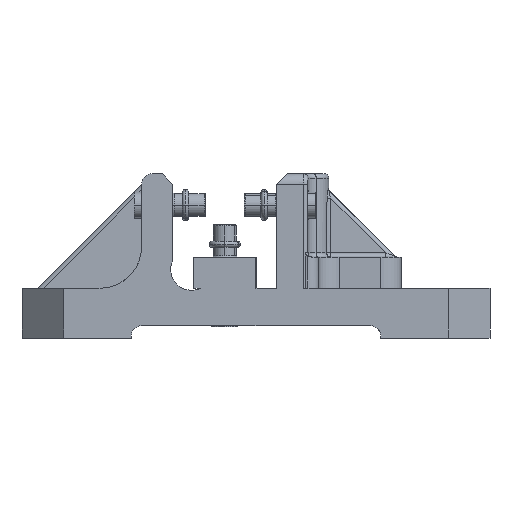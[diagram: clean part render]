
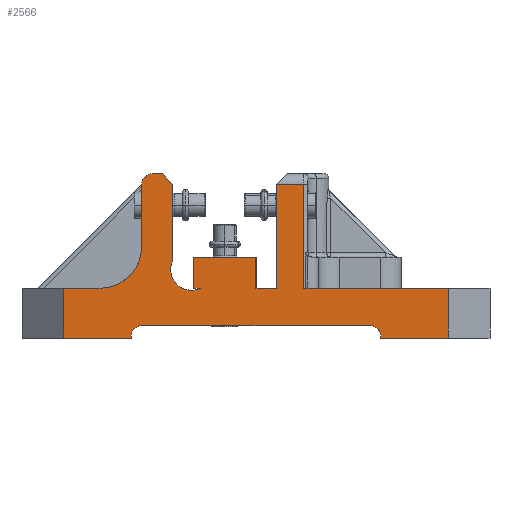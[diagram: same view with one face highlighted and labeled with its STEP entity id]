
A CAD part, left-side view. The second image highlights one B-rep face of the part: STEP entity #2566.
In plain terms, the highlighted planar face has unit normal (-1, 0, 0).
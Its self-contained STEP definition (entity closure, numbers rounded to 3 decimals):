
#2566=ADVANCED_FACE('Solid.13',(#6253),#6254,.F.);
#6253=FACE_OUTER_BOUND('',#11248,.T.);
#6254=PLANE('',#11249);
#11248=EDGE_LOOP('',(#20082,#20083,#20084,#20085,#20086,#20087,#20088,#20089,#20090,#20091,#20092,#20093,#20094,#20095,#20096,#20097,#20098,#20099,#20100,#20101,#20102,#20103,#20104,#20105,#20106,#20107,#20108,#20109));
#11249=AXIS2_PLACEMENT_3D('',#20110,#20111,#20112);
#20082=ORIENTED_EDGE('',*,*,#32218,.F.);
#20083=ORIENTED_EDGE('',*,*,#32219,.F.);
#20084=ORIENTED_EDGE('',*,*,#32220,.F.);
#20085=ORIENTED_EDGE('',*,*,#32221,.F.);
#20086=ORIENTED_EDGE('',*,*,#32222,.T.);
#20087=ORIENTED_EDGE('',*,*,#32223,.F.);
#20088=ORIENTED_EDGE('',*,*,#32224,.F.);
#20089=ORIENTED_EDGE('',*,*,#32225,.F.);
#20090=ORIENTED_EDGE('',*,*,#32226,.F.);
#20091=ORIENTED_EDGE('',*,*,#32227,.F.);
#20092=ORIENTED_EDGE('',*,*,#32228,.F.);
#20093=ORIENTED_EDGE('',*,*,#32229,.F.);
#20094=ORIENTED_EDGE('',*,*,#32023,.F.);
#20095=ORIENTED_EDGE('',*,*,#32230,.F.);
#20096=ORIENTED_EDGE('',*,*,#32203,.F.);
#20097=ORIENTED_EDGE('',*,*,#32231,.F.);
#20098=ORIENTED_EDGE('',*,*,#32232,.F.);
#20099=ORIENTED_EDGE('',*,*,#32233,.F.);
#20100=ORIENTED_EDGE('',*,*,#32234,.F.);
#20101=ORIENTED_EDGE('',*,*,#32235,.F.);
#20102=ORIENTED_EDGE('',*,*,#32236,.F.);
#20103=ORIENTED_EDGE('',*,*,#32237,.F.);
#20104=ORIENTED_EDGE('',*,*,#32238,.F.);
#20105=ORIENTED_EDGE('',*,*,#32239,.T.);
#20106=ORIENTED_EDGE('',*,*,#32240,.T.);
#20107=ORIENTED_EDGE('',*,*,#32241,.F.);
#20108=ORIENTED_EDGE('',*,*,#32242,.T.);
#20109=ORIENTED_EDGE('',*,*,#32243,.F.);
#20110=CARTESIAN_POINT('',(-157.5,0.0,0.0));
#20111=DIRECTION('',(1.0,0.0,0.0));
#20112=DIRECTION('',(0.0,1.0,0.0));
#32023=EDGE_CURVE('',#38572,#38575,#38576,.F.);
#32203=EDGE_CURVE('',#38829,#38830,#38831,.T.);
#32218=EDGE_CURVE('',#38853,#38854,#38855,.T.);
#32219=EDGE_CURVE('',#38856,#38853,#38857,.F.);
#32220=EDGE_CURVE('',#37862,#38856,#38858,.T.);
#32221=EDGE_CURVE('',#38859,#37862,#38860,.T.);
#32222=EDGE_CURVE('',#38859,#38861,#38862,.F.);
#32223=EDGE_CURVE('',#38863,#38861,#38864,.T.);
#32224=EDGE_CURVE('',#38865,#38863,#38866,.T.);
#32225=EDGE_CURVE('',#38867,#38865,#38868,.T.);
#32226=EDGE_CURVE('',#38869,#38867,#38870,.T.);
#32227=EDGE_CURVE('',#38871,#38869,#38872,.F.);
#32228=EDGE_CURVE('',#38873,#38871,#38874,.T.);
#32229=EDGE_CURVE('',#38575,#38873,#38875,.F.);
#32230=EDGE_CURVE('',#38830,#38572,#38876,.F.);
#32231=EDGE_CURVE('',#38877,#38829,#38878,.T.);
#32232=EDGE_CURVE('',#38879,#38877,#38880,.T.);
#32233=EDGE_CURVE('',#38881,#38879,#38882,.T.);
#32234=EDGE_CURVE('',#38883,#38881,#38884,.T.);
#32235=EDGE_CURVE('',#38885,#38883,#38886,.F.);
#32236=EDGE_CURVE('',#38887,#38885,#38888,.T.);
#32237=EDGE_CURVE('',#38889,#38887,#38890,.F.);
#32238=EDGE_CURVE('',#38891,#38889,#38892,.T.);
#32239=EDGE_CURVE('',#38891,#38893,#38894,.T.);
#32240=EDGE_CURVE('',#38893,#38895,#38896,.T.);
#32241=EDGE_CURVE('',#38897,#38895,#38898,.T.);
#32242=EDGE_CURVE('',#38897,#38899,#38900,.T.);
#32243=EDGE_CURVE('',#38854,#38899,#38901,.T.);
#37862=VERTEX_POINT('',#46213);
#38572=VERTEX_POINT('',#47101);
#38575=VERTEX_POINT('',#47105);
#38576=CIRCLE('',#47106,10.0);
#38829=VERTEX_POINT('',#47400);
#38830=VERTEX_POINT('',#47401);
#38831=LINE('',#47402,#47403);
#38853=VERTEX_POINT('',#47430);
#38854=VERTEX_POINT('',#47431);
#38855=LINE('',#47432,#47433);
#38856=VERTEX_POINT('',#47434);
#38857=LINE('',#47435,#47436);
#38858=LINE('',#47437,#47438);
#38859=VERTEX_POINT('',#47439);
#38860=LINE('',#47440,#47441);
#38861=VERTEX_POINT('',#47442);
#38862=LINE('',#47443,#47444);
#38863=VERTEX_POINT('',#47445);
#38864=LINE('',#47446,#47447);
#38865=VERTEX_POINT('',#47448);
#38866=LINE('',#47449,#47450);
#38867=VERTEX_POINT('',#47451);
#38868=LINE('',#47452,#47453);
#38869=VERTEX_POINT('',#47454);
#38870=LINE('',#47455,#47456);
#38871=VERTEX_POINT('',#47457);
#38872=LINE('',#47458,#47459);
#38873=VERTEX_POINT('',#47460);
#38874=LINE('',#47461,#47462);
#38875=LINE('',#47463,#47464);
#38876=CIRCLE('',#47465,10.0);
#38877=VERTEX_POINT('',#47466);
#38878=LINE('',#47467,#47468);
#38879=VERTEX_POINT('',#47469);
#38880=LINE('',#47470,#47471);
#38881=VERTEX_POINT('',#47472);
#38882=CIRCLE('',#47473,5.0);
#38883=VERTEX_POINT('',#47474);
#38884=LINE('',#47475,#47476);
#38885=VERTEX_POINT('',#47477);
#38886=CIRCLE('',#47478,20.0);
#38887=VERTEX_POINT('',#47479);
#38888=LINE('',#47480,#47481);
#38889=VERTEX_POINT('',#47482);
#38890=LINE('',#47483,#47484);
#38891=VERTEX_POINT('',#47485);
#38892=LINE('',#47486,#47487);
#38893=VERTEX_POINT('',#47488);
#38894=LINE('',#47489,#47490);
#38895=VERTEX_POINT('',#47491);
#38896=CIRCLE('',#47492,5.0);
#38897=VERTEX_POINT('',#47493);
#38898=LINE('',#47494,#47495);
#38899=VERTEX_POINT('',#47496);
#38900=CIRCLE('',#47497,5.0);
#38901=LINE('',#47498,#47499);
#46213=CARTESIAN_POINT('',(-157.5,-25.,24.0));
#47101=CARTESIAN_POINT('',(-157.5,41.0,33.0));
#47105=CARTESIAN_POINT('',(-157.5,26.641,24.0));
#47106=AXIS2_PLACEMENT_3D('',#57419,#57420,#57421);
#47400=CARTESIAN_POINT('',(-157.5,40.0,74.0));
#47401=CARTESIAN_POINT('',(-157.5,40.0,37.359));
#47402=CARTESIAN_POINT('',(-157.5,40.0,55.679));
#47403=VECTOR('',#57706,1.0);
#47430=CARTESIAN_POINT('',(-157.5,-92.5,0.0));
#47431=CARTESIAN_POINT('',(-157.5,-60.0,0.0));
#47432=CARTESIAN_POINT('',(-157.5,-76.25,0.0));
#47433=VECTOR('',#57736,1.0);
#47434=CARTESIAN_POINT('',(-157.5,-92.5,24.0));
#47435=CARTESIAN_POINT('',(-157.5,-92.5,12.0));
#47436=VECTOR('',#57737,1.0);
#47437=CARTESIAN_POINT('',(-157.5,-58.75,24.0));
#47438=VECTOR('',#57738,1.0);
#47439=CARTESIAN_POINT('',(-157.5,-23.,24.0));
#47440=CARTESIAN_POINT('',(-157.5,-24.,24.0));
#47441=VECTOR('',#57739,1.0);
#47442=CARTESIAN_POINT('',(-157.5,-23.,74.0));
#47443=CARTESIAN_POINT('',(-157.5,-23.,49.0));
#47444=VECTOR('',#57740,1.0);
#47445=CARTESIAN_POINT('',(-157.5,-10.,74.0));
#47446=CARTESIAN_POINT('',(-157.5,-16.5,74.0));
#47447=VECTOR('',#57741,1.0);
#47448=CARTESIAN_POINT('',(-157.5,-10.,24.0));
#47449=CARTESIAN_POINT('',(-157.5,-10.,49.0));
#47450=VECTOR('',#57742,1.0);
#47451=CARTESIAN_POINT('',(-157.5,0.,24.0));
#47452=CARTESIAN_POINT('',(-157.5,-5.,24.0));
#47453=VECTOR('',#57743,1.0);
#47454=CARTESIAN_POINT('',(-157.5,0.,39.0));
#47455=CARTESIAN_POINT('',(-157.5,0.,31.5));
#47456=VECTOR('',#57744,1.0);
#47457=CARTESIAN_POINT('',(-157.5,30.0,39.0));
#47458=CARTESIAN_POINT('',(-157.5,15.0,39.0));
#47459=VECTOR('',#57745,1.0);
#47460=CARTESIAN_POINT('',(-157.5,30.0,24.0));
#47461=CARTESIAN_POINT('',(-157.5,30.0,31.5));
#47462=VECTOR('',#57746,1.0);
#47463=CARTESIAN_POINT('',(-157.5,28.321,24.0));
#47464=VECTOR('',#57747,1.0);
#47465=AXIS2_PLACEMENT_3D('',#57748,#57749,#57750);
#47466=CARTESIAN_POINT('',(-157.5,45.0,79.0));
#47467=CARTESIAN_POINT('',(-157.5,42.5,76.5));
#47468=VECTOR('',#57751,1.0);
#47469=CARTESIAN_POINT('',(-157.5,50.0,79.0));
#47470=CARTESIAN_POINT('',(-157.5,47.5,79.0));
#47471=VECTOR('',#57752,1.0);
#47472=CARTESIAN_POINT('',(-157.5,55.0,74.0));
#47473=AXIS2_PLACEMENT_3D('',#57753,#57754,#57755);
#47474=CARTESIAN_POINT('',(-157.5,55.0,44.0));
#47475=CARTESIAN_POINT('',(-157.5,55.0,59.0));
#47476=VECTOR('',#57756,1.0);
#47477=CARTESIAN_POINT('',(-157.5,75.0,24.0));
#47478=AXIS2_PLACEMENT_3D('',#57757,#57758,#57759);
#47479=CARTESIAN_POINT('',(-157.5,92.5,24.0));
#47480=CARTESIAN_POINT('',(-157.5,83.75,24.0));
#47481=VECTOR('',#57760,1.0);
#47482=CARTESIAN_POINT('',(-157.5,92.5,0.0));
#47483=CARTESIAN_POINT('',(-157.5,92.5,12.0));
#47484=VECTOR('',#57761,1.0);
#47485=CARTESIAN_POINT('',(-157.5,60.0,0.0));
#47486=CARTESIAN_POINT('',(-157.5,76.25,0.0));
#47487=VECTOR('',#57762,1.0);
#47488=CARTESIAN_POINT('',(-157.5,60.0,1.0));
#47489=CARTESIAN_POINT('',(-157.5,60.0,0.5));
#47490=VECTOR('',#57763,1.0);
#47491=CARTESIAN_POINT('',(-157.5,55.0,6.0));
#47492=AXIS2_PLACEMENT_3D('',#57764,#57765,#57766);
#47493=CARTESIAN_POINT('',(-157.5,-55.0,6.0));
#47494=CARTESIAN_POINT('',(-157.5,0.0,6.0));
#47495=VECTOR('',#57767,1.0);
#47496=CARTESIAN_POINT('',(-157.5,-60.0,1.));
#47497=AXIS2_PLACEMENT_3D('',#57768,#57769,#57770);
#47498=CARTESIAN_POINT('',(-157.5,-60.0,0.5));
#47499=VECTOR('',#57771,1.0);
#57419=CARTESIAN_POINT('',(-157.5,31.0,33.0));
#57420=DIRECTION('',(1.0,0.0,0.0));
#57421=DIRECTION('',(0.0,1.0,0.0));
#57706=DIRECTION('',(0.0,0.0,-1.0));
#57736=DIRECTION('',(0.0,1.0,0.0));
#57737=DIRECTION('',(0.0,0.0,1.0));
#57738=DIRECTION('',(0.0,-1.0,0.0));
#57739=DIRECTION('',(0.0,-1.0,0.0));
#57740=DIRECTION('',(0.0,0.0,-1.0));
#57741=DIRECTION('',(0.0,-1.0,0.0));
#57742=DIRECTION('',(0.0,0.0,1.0));
#57743=DIRECTION('',(0.0,-1.0,0.0));
#57744=DIRECTION('',(0.0,0.0,-1.0));
#57745=DIRECTION('',(0.0,1.0,0.0));
#57746=DIRECTION('',(0.0,0.0,1.0));
#57747=DIRECTION('',(0.0,-1.0,0.0));
#57748=CARTESIAN_POINT('',(-157.5,31.0,33.0));
#57749=DIRECTION('',(1.0,0.0,0.0));
#57750=DIRECTION('',(0.0,1.0,0.0));
#57751=DIRECTION('',(0.0,-0.707,-0.707));
#57752=DIRECTION('',(0.0,-1.0,0.0));
#57753=CARTESIAN_POINT('',(-157.5,50.0,74.0));
#57754=DIRECTION('',(1.0,0.0,0.0));
#57755=DIRECTION('',(0.0,1.0,0.0));
#57756=DIRECTION('',(0.0,0.0,1.0));
#57757=CARTESIAN_POINT('',(-157.5,75.0,44.0));
#57758=DIRECTION('',(1.0,0.0,0.0));
#57759=DIRECTION('',(0.0,1.0,0.0));
#57760=DIRECTION('',(0.0,-1.0,0.0));
#57761=DIRECTION('',(0.0,0.0,-1.0));
#57762=DIRECTION('',(0.0,1.0,0.0));
#57763=DIRECTION('',(0.0,0.0,1.0));
#57764=CARTESIAN_POINT('',(-157.5,55.0,1.0));
#57765=DIRECTION('',(1.0,0.0,0.0));
#57766=DIRECTION('',(0.0,1.0,0.0));
#57767=DIRECTION('',(0.0,1.0,0.0));
#57768=CARTESIAN_POINT('',(-157.5,-55.0,1.0));
#57769=DIRECTION('',(1.0,0.0,0.0));
#57770=DIRECTION('',(0.0,1.0,0.0));
#57771=DIRECTION('',(0.0,0.0,1.0));
